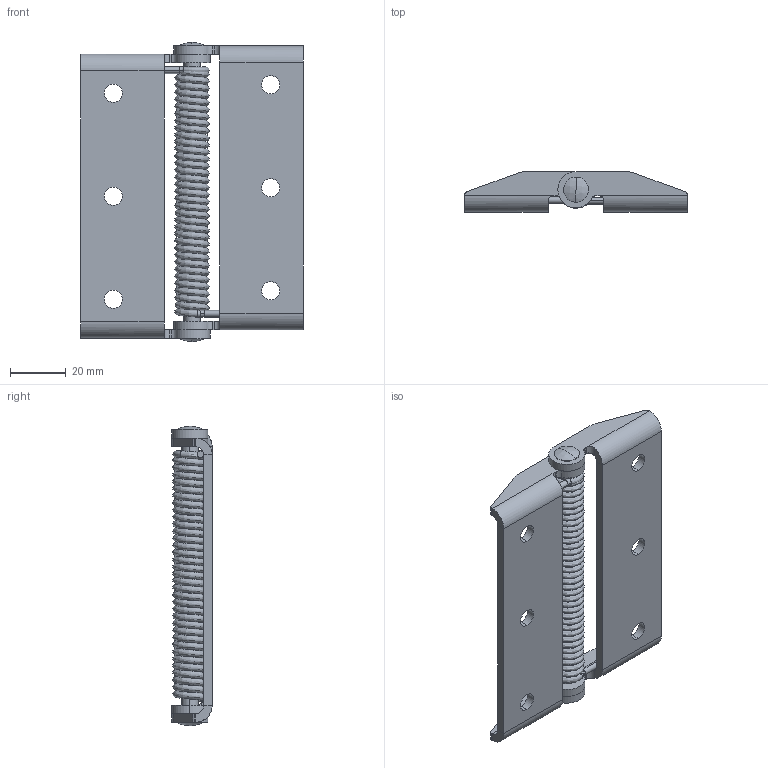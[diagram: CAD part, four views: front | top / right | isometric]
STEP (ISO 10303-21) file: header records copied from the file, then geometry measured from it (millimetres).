
FILE_DESCRIPTION (( 'STEP AP203' ), '1' );
FILE_NAME ('7123851.STEP', '2017-08-22T15:43:36', ( 'admin' ), ( 'HP' ), 'SwSTEP 2.0', 'SolidWorks 2014', '' );
FILE_SCHEMA (( 'CONFIG_CONTROL_DESIGN' ));
Length unit declared in the file: millimetre
Products named in the file (4): 7123851_Coté de charnière_1001; 33100038_Ressort de torsion_P1; 7123851; 7123851_Broche
Assembly tree (4 placements, depth 2):
  7123851
    7123851_Coté de charnière_1001  x2
    7123851_Broche
    33100038_Ressort de torsion_P1
Bounding box: 80 x 14.5 x 107.5 mm (x, y, z)
Volume: 30299.5 mm3; surface area: 28325.7 mm2
Topology: 4 solids, 4 shells, 118 faces, 288 edges, 180 vertices
Faces by surface type: cylinder 60, plane 44, bspline 6, sphere 4, torus 4
Entity records: 8705 total; most frequent: CARTESIAN_POINT 6523, DIRECTION 397, ORIENTED_EDGE 350, EDGE_CURVE 175, AXIS2_PLACEMENT_3D 162, VERTEX_POINT 110, CIRCLE 88, EDGE_LOOP 85
